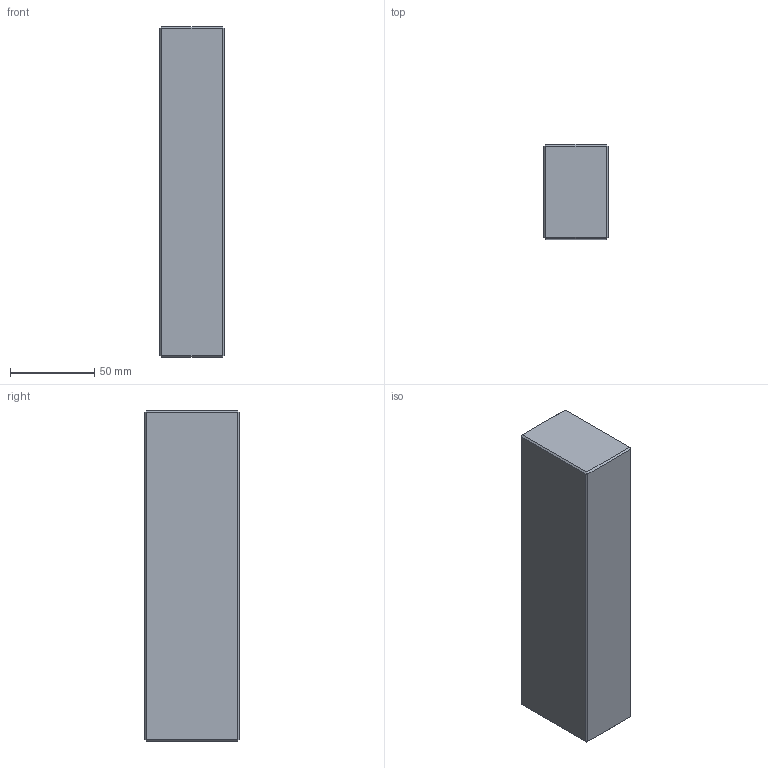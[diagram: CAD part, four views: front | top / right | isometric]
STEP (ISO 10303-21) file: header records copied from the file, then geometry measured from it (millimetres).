
FILE_DESCRIPTION (( 'STEP AP214' ), '1' );
FILE_NAME ('ESP-P-196X196x56.STEP', '2020-04-08T10:15:54', ( 'August' ), ( '' ), 'SwSTEP 2.0', 'SolidWorks 2018', '' );
FILE_SCHEMA (( 'AUTOMOTIVE_DESIGN' ));
Length unit declared in the file: millimetre
Products named in the file (1): ESP-P-196X196x56
Bounding box: 38 x 56 x 196 mm (x, y, z)
Volume: 416513.3 mm3; surface area: 40421.5 mm2
Topology: 1 solids, 1 shells, 26 faces, 48 edges, 24 vertices
Faces by surface type: plane 26
Entity records: 634 total; most frequent: DIRECTION 102, CARTESIAN_POINT 99, ORIENTED_EDGE 96, EDGE_CURVE 48, VECTOR 48, LINE 48, AXIS2_PLACEMENT_3D 27, PLANE 26
